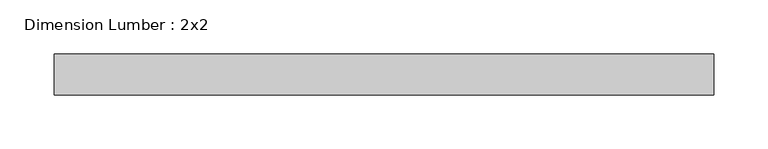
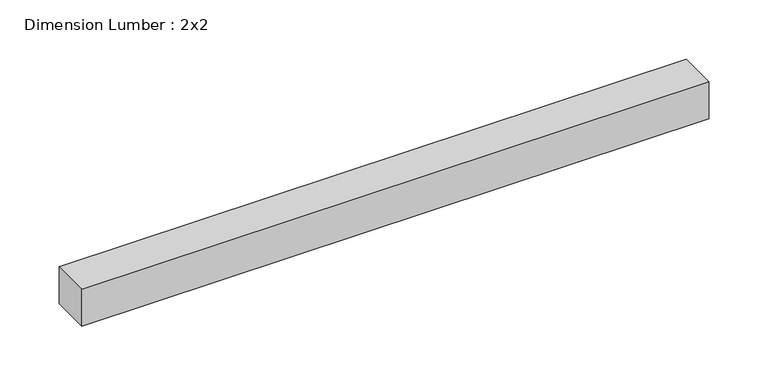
"""IFC4 building model written with IfcOpenShell, lengths in millimetres: beam geometry, Dimension Lumber : 2x2."""

from ifc_helpers import new_model, si_unit, frame, origin, place, context, project, spatial, polyline, outline, extrude, source, transform, mapped, element, save


def dimension_lumber_2x2_9f254d07(model_context):
    return source(origin(), model_context, "Body", "SweptSolid", [
        extrude(outline(polyline([(304.8, 19.05), (304.8, -19.05), (-304.8, -19.05), (-304.8, 19.05), (304.8, 19.05)])), frame((0.0, 0.0, -19.05), z_axis=(0.0, 0.0, 1.0), x_axis=(1.0, 0.0, 0.0)), (0.0, 0.0, 1.0), 38.1),
    ])


if __name__ == "__main__":
    model = new_model("IFC4")
    model_context = context("Model", 3, world=origin())
    ifc_project = project(units=[si_unit("LENGTHUNIT", "METRE", prefix="MILLI")], contexts=[model_context])
    site = spatial("IfcSite", under=ifc_project)
    building = spatial("IfcBuilding", under=site)
    placement = place(None, origin())
    dimension_lumber_2x2_shape = dimension_lumber_2x2_9f254d07(model_context)
    element("IfcBeam", 1, ObjectType="Dimension Lumber : 2x2", at=placement, inside=building, context=model_context, shape_type="MappedRepresentation", body=[
        mapped(dimension_lumber_2x2_shape, transform((0.0, 0.0, 0.0), x_axis=(1.0, 0.0, 0.0), y_axis=(0.0, 1.0, 0.0), z_axis=(0.0, 0.0, 1.0))),
    ])
    save(model, "model.ifc")
